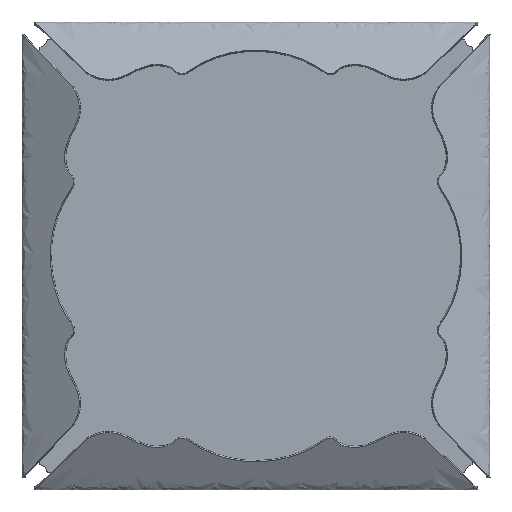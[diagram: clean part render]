
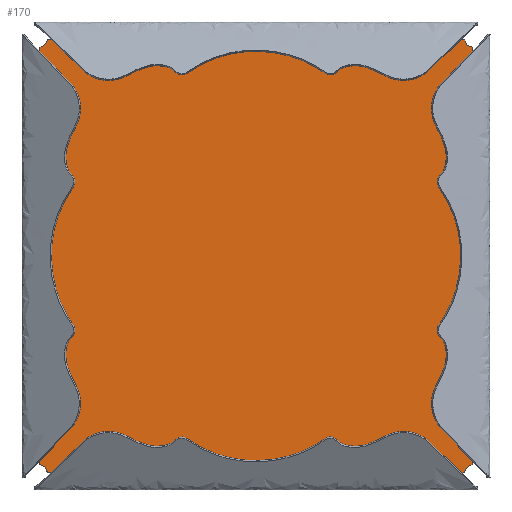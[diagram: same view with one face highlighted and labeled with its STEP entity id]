
A CAD part, top view. The second image highlights one B-rep face of the part: STEP entity #170.
In plain terms, the highlighted planar face has unit normal (0, 0, 1).
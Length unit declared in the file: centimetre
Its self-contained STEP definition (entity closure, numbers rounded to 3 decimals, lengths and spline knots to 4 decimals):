
#32=PLANE($,#2179);
#170=ADVANCED_FACE($,(#294),#32,.T.);
#294=FACE_OUTER_BOUND($,#426,.T.);
#426=EDGE_LOOP($,(#1082,#1083));
#1082=ORIENTED_EDGE($,*,*,#1417,.F.);
#1083=ORIENTED_EDGE($,*,*,#1414,.F.);
#1414=EDGE_CURVE($,#1635,#1637,#1837,.T.);
#1417=EDGE_CURVE($,#1637,#1635,#1839,.T.);
#1635=VERTEX_POINT($,#5355);
#1637=VERTEX_POINT($,#5357);
#1837=(
BOUNDED_CURVE()
B_SPLINE_CURVE(2,(#5231,#5232,#5233,#5234,#5235,#5236,#5237,#5238,#5239,
#5240,#5241,#5242,#5243,#5244,#5245,#5246,#5247),.UNSPECIFIED.,.F.,.F.)
B_SPLINE_CURVE_WITH_KNOTS((3,2,2,2,2,2,2,2,3),(200.8639,201.158,
203.6248,203.919,299.939,300.2331,302.7,
302.9941,399.0141),.UNSPECIFIED.)
CURVE()
GEOMETRIC_REPRESENTATION_ITEM()
RATIONAL_B_SPLINE_CURVE((1.,0.742,1.,0.774,1.,0.742,
1.,1.,1.,0.742,1.,0.774,1.,0.742,1.,1.,
1.))
REPRESENTATION_ITEM($)
);
#1839=(
BOUNDED_CURVE()
B_SPLINE_CURVE(2,(#5267,#5268,#5269,#5270,#5271,#5272,#5273,#5274,#5275,
#5276,#5277,#5278,#5279,#5280,#5281,#5282,#5283),.UNSPECIFIED.,.F.,.F.)
B_SPLINE_CURVE_WITH_KNOTS((3,2,2,2,2,2,2,2,3),(399.0141,399.3083,
401.7751,402.0692,498.0893,498.3834,500.8502,
501.1444,597.1644),.UNSPECIFIED.)
CURVE()
GEOMETRIC_REPRESENTATION_ITEM()
RATIONAL_B_SPLINE_CURVE((1.,0.742,1.,0.774,1.,0.742,
1.,1.,1.,0.742,1.,0.774,1.,0.742,1.,
1.,1.))
REPRESENTATION_ITEM($)
);
#2179=AXIS2_PLACEMENT_3D($,#5319,#2196,$);
#2196=DIRECTION($,(0.,0.,1.));
#5231=CARTESIAN_POINT($,(0.,98.01,1.1));
#5232=CARTESIAN_POINT($,(0.,98.1909,1.1));
#5233=CARTESIAN_POINT($,(0.18,98.209,1.1));
#5234=CARTESIAN_POINT($,(1.6439,98.3561,1.1));
#5235=CARTESIAN_POINT($,(1.791,99.82,1.1));
#5236=CARTESIAN_POINT($,(1.8091,100.,1.1));
#5237=CARTESIAN_POINT($,(1.99,100.,1.1));
#5238=CARTESIAN_POINT($,(50.,100.,1.1));
#5239=CARTESIAN_POINT($,(98.01,100.,1.1));
#5240=CARTESIAN_POINT($,(98.1909,100.,1.1));
#5241=CARTESIAN_POINT($,(98.209,99.82,1.1));
#5242=CARTESIAN_POINT($,(98.3561,98.3561,1.1));
#5243=CARTESIAN_POINT($,(99.82,98.209,1.1));
#5244=CARTESIAN_POINT($,(100.,98.1909,1.1));
#5245=CARTESIAN_POINT($,(100.,98.01,1.1));
#5246=CARTESIAN_POINT($,(100.,50.,1.1));
#5247=CARTESIAN_POINT($,(100.,1.99,1.1));
#5267=CARTESIAN_POINT($,(100.,1.99,1.1));
#5268=CARTESIAN_POINT($,(100.,1.8091,1.1));
#5269=CARTESIAN_POINT($,(99.82,1.791,1.1));
#5270=CARTESIAN_POINT($,(98.3561,1.6439,1.1));
#5271=CARTESIAN_POINT($,(98.209,0.18,1.1));
#5272=CARTESIAN_POINT($,(98.1909,0.,1.1));
#5273=CARTESIAN_POINT($,(98.01,0.,1.1));
#5274=CARTESIAN_POINT($,(50.,0.,1.1));
#5275=CARTESIAN_POINT($,(1.99,0.,1.1));
#5276=CARTESIAN_POINT($,(1.8091,0.,1.1));
#5277=CARTESIAN_POINT($,(1.791,0.18,1.1));
#5278=CARTESIAN_POINT($,(1.6439,1.6439,1.1));
#5279=CARTESIAN_POINT($,(0.18,1.791,1.1));
#5280=CARTESIAN_POINT($,(0.,1.8091,1.1));
#5281=CARTESIAN_POINT($,(0.,1.99,1.1));
#5282=CARTESIAN_POINT($,(0.,50.,1.1));
#5283=CARTESIAN_POINT($,(0.,98.01,1.1));
#5319=CARTESIAN_POINT($,(0.,100.,1.1));
#5355=CARTESIAN_POINT($,(0.,98.01,1.1));
#5357=CARTESIAN_POINT($,(100.,1.99,1.1));
